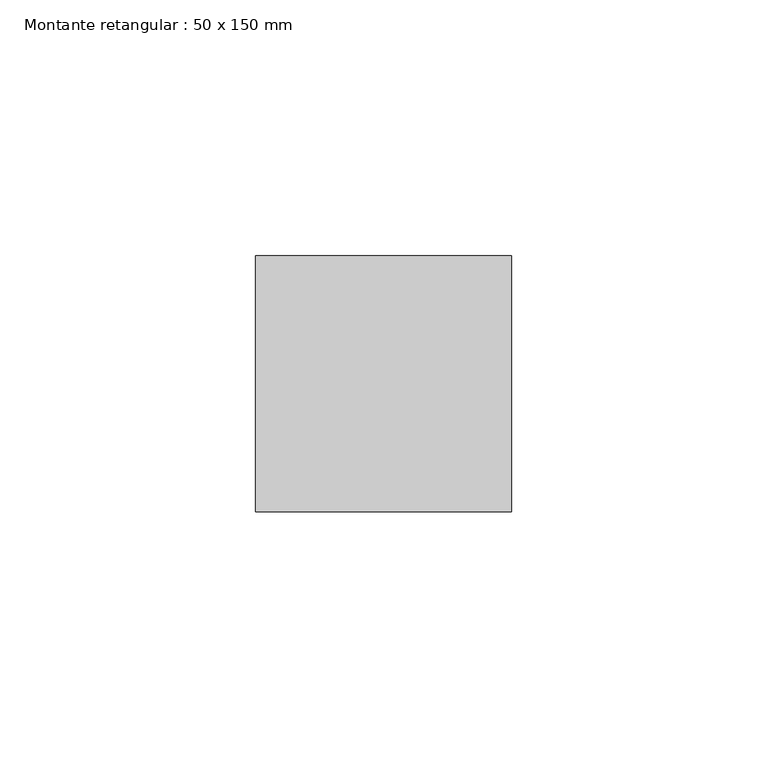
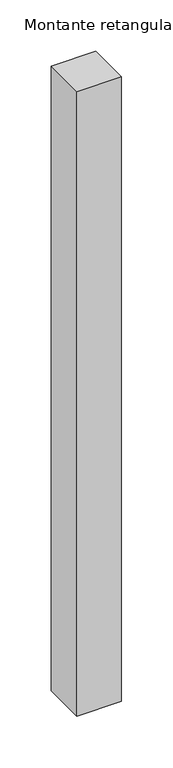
"""IFC4 building model written with IfcOpenShell, lengths in millimetres: member geometry, Montante retangular : 50 x 150 mm."""

from ifc_helpers import new_model, si_unit, frame, origin, place, context, project, spatial, polyline, outline, extrude, source, transform, mapped, element, save


def montante_retangular_50_x_150_mm_dc8bcb1a(model_context):
    return source(origin(), model_context, "Body", "SweptSolid", [
        extrude(outline(polyline([(0.0, 25.0), (0.0, -25.0), (-50.0, -25.0), (-50.0, 25.0), (0.0, 25.0)])), frame((0.0, 0.0, -743.3333333), z_axis=(0.0, 0.0, 1.0), x_axis=(1.0, 0.0, 0.0)), (0.0, 0.0, 1.0), 743.3333333),
    ])


if __name__ == "__main__":
    model = new_model("IFC4")
    model_context = context("Model", 3, world=origin())
    ifc_project = project(units=[si_unit("LENGTHUNIT", "METRE", prefix="MILLI")], contexts=[model_context])
    site = spatial("IfcSite", under=ifc_project)
    building = spatial("IfcBuilding", under=site)
    placement = place(None, origin())
    montante_retangular_50_x_150_mm_shape = montante_retangular_50_x_150_mm_dc8bcb1a(model_context)
    element("IfcMember", 1, ObjectType="Montante retangular : 50 x 150 mm", at=placement, inside=building, context=model_context, shape_type="MappedRepresentation", body=[
        mapped(montante_retangular_50_x_150_mm_shape, transform((0.0, 0.0, 0.0), x_axis=(1.0, 0.0, 0.0), y_axis=(0.0, 1.0, 0.0), z_axis=(0.0, 0.0, 1.0))),
    ])
    save(model, "model.ifc")
